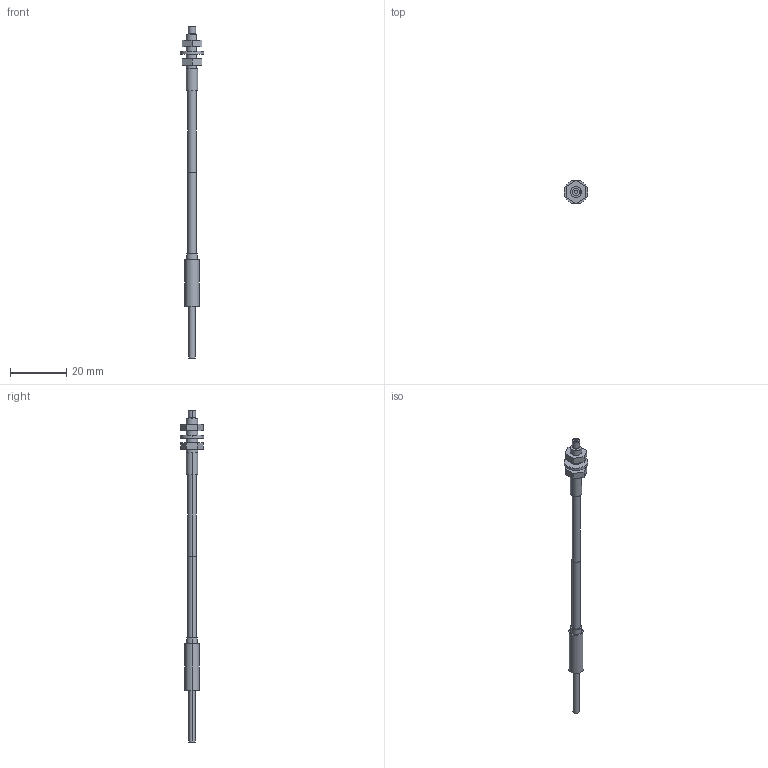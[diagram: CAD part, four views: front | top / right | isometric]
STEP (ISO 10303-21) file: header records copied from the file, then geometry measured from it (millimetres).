
FILE_DESCRIPTION (( 'STEP AP203' ), '1' );
FILE_NAME ('FT-H20-M1.STEP', '2005-11-09T08:24:58', ( '' ), ( '' ), 'SwSTEP 2.0', 'SolidWorks 2004073', '' );
FILE_SCHEMA (( 'CONFIG_CONTROL_DESIGN' ));
Length unit declared in the file: millimetre
Products named in the file (1): FT-H20-M1
Bounding box: 8.5 x 8.5 x 118 mm (x, y, z)
Volume: 1247.1 mm3; surface area: 1743.1 mm2
Topology: 7 solids, 7 shells, 60 faces, 120 edges, 80 vertices
Faces by surface type: plane 33, cylinder 27
Entity records: 1655 total; most frequent: DIRECTION 296, CARTESIAN_POINT 261, ORIENTED_EDGE 240, EDGE_CURVE 120, AXIS2_PLACEMENT_3D 115, VERTEX_POINT 80, EDGE_LOOP 72, LINE 66
